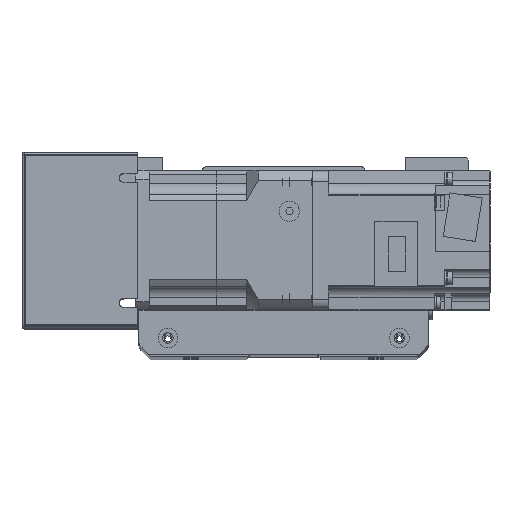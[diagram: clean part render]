
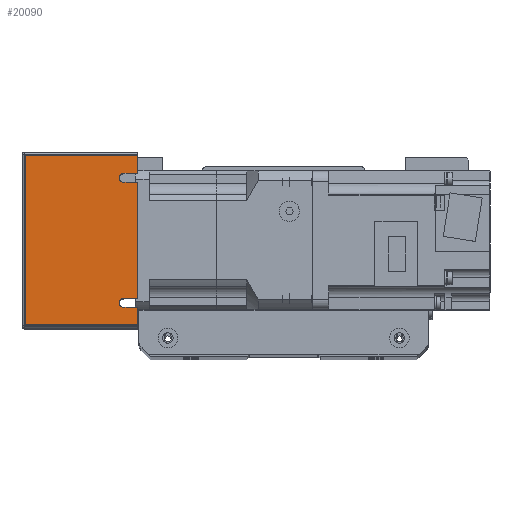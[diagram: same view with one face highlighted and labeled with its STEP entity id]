
A CAD part, top view. The second image highlights one B-rep face of the part: STEP entity #20090.
In plain terms, the highlighted planar face has unit normal (0, 0, 1) as drawn and (-1, 0, 0) by its records, which use the part's own axes.
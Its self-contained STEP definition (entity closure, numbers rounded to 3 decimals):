
#706=PLANE('',#22256);
#2036=LINE('',#34006,#3660);
#2045=LINE('',#34025,#3669);
#2052=LINE('',#34042,#3676);
#2060=LINE('',#34060,#3684);
#2073=LINE('',#34099,#3697);
#2078=LINE('',#34111,#3702);
#2082=LINE('',#34123,#3706);
#2085=LINE('',#34133,#3709);
#2086=LINE('',#34135,#3710);
#2087=LINE('',#34136,#3711);
#3660=VECTOR('',#27553,10.);
#3669=VECTOR('',#27566,10.);
#3676=VECTOR('',#27577,10.);
#3684=VECTOR('',#27589,10.);
#3697=VECTOR('',#27632,10.);
#3702=VECTOR('',#27643,10.);
#3706=VECTOR('',#27653,10.);
#3709=VECTOR('',#27664,10.);
#3710=VECTOR('',#27665,10.);
#3711=VECTOR('',#27666,10.);
#6038=FACE_OUTER_BOUND('',#7646,.T.);
#7646=EDGE_LOOP('',(#18047,#18048,#18049,#18050,#18051,#18052,#18053,#18054,
#18055,#18056,#18057,#18058));
#8790=CIRCLE('',#22234,2.);
#8795=CIRCLE('',#22242,2.);
#10483=VERTEX_POINT('',#34003);
#10484=VERTEX_POINT('',#34005);
#10490=VERTEX_POINT('',#34019);
#10492=VERTEX_POINT('',#34023);
#10499=VERTEX_POINT('',#34039);
#10500=VERTEX_POINT('',#34041);
#10507=VERTEX_POINT('',#34057);
#10508=VERTEX_POINT('',#34059);
#10519=VERTEX_POINT('',#34097);
#10528=VERTEX_POINT('',#34122);
#10531=VERTEX_POINT('',#34132);
#10532=VERTEX_POINT('',#34134);
#13038=EDGE_CURVE('',#10484,#10483,#2036,.T.);
#13047=EDGE_CURVE('',#10490,#10492,#2045,.T.);
#13054=EDGE_CURVE('',#10500,#10499,#2052,.T.);
#13062=EDGE_CURVE('',#10508,#10507,#2060,.T.);
#13068=EDGE_CURVE('',#10492,#10484,#8790,.T.);
#13079=EDGE_CURVE('',#10507,#10500,#8795,.T.);
#13084=EDGE_CURVE('',#10519,#10499,#2073,.T.);
#13091=EDGE_CURVE('',#10508,#10483,#2078,.T.);
#13097=EDGE_CURVE('',#10490,#10528,#2082,.T.);
#13102=EDGE_CURVE('',#10531,#10519,#2085,.T.);
#13103=EDGE_CURVE('',#10532,#10531,#2086,.T.);
#13104=EDGE_CURVE('',#10528,#10532,#2087,.T.);
#18047=ORIENTED_EDGE('',*,*,#13038,.T.);
#18048=ORIENTED_EDGE('',*,*,#13091,.F.);
#18049=ORIENTED_EDGE('',*,*,#13062,.T.);
#18050=ORIENTED_EDGE('',*,*,#13079,.T.);
#18051=ORIENTED_EDGE('',*,*,#13054,.T.);
#18052=ORIENTED_EDGE('',*,*,#13084,.F.);
#18053=ORIENTED_EDGE('',*,*,#13102,.F.);
#18054=ORIENTED_EDGE('',*,*,#13103,.F.);
#18055=ORIENTED_EDGE('',*,*,#13104,.F.);
#18056=ORIENTED_EDGE('',*,*,#13097,.F.);
#18057=ORIENTED_EDGE('',*,*,#13047,.T.);
#18058=ORIENTED_EDGE('',*,*,#13068,.T.);
#20090=ADVANCED_FACE('',(#6038),#706,.T.);
#22234=AXIS2_PLACEMENT_3D('',#34072,#27599,#27600);
#22242=AXIS2_PLACEMENT_3D('',#34090,#27621,#27622);
#22256=AXIS2_PLACEMENT_3D('',#34131,#27662,#27663);
#27553=DIRECTION('',(0.,0.,1.));
#27566=DIRECTION('',(0.,0.,-1.));
#27577=DIRECTION('',(0.,0.,1.));
#27589=DIRECTION('',(0.,0.,-1.));
#27599=DIRECTION('center_axis',(1.,0.,0.));
#27600=DIRECTION('ref_axis',(0.,0.,1.));
#27621=DIRECTION('center_axis',(1.,0.,0.));
#27622=DIRECTION('ref_axis',(0.,0.,1.));
#27632=DIRECTION('',(0.,-1.,0.));
#27643=DIRECTION('',(0.,-1.,0.));
#27653=DIRECTION('',(0.,-1.,0.));
#27662=DIRECTION('center_axis',(-1.,0.,0.));
#27663=DIRECTION('ref_axis',(0.,-1.,0.));
#27664=DIRECTION('',(0.,0.,1.));
#27665=DIRECTION('',(0.,1.,0.));
#27666=DIRECTION('',(0.,0.,-1.));
#34003=CARTESIAN_POINT('',(-91.,-25.,25.));
#34005=CARTESIAN_POINT('',(-91.,-25.,19.));
#34006=CARTESIAN_POINT('',(-91.,-25.,9.5));
#34019=CARTESIAN_POINT('',(-91.,-29.,25.));
#34023=CARTESIAN_POINT('',(-91.,-29.,19.));
#34025=CARTESIAN_POINT('',(-91.,-29.,15.178));
#34039=CARTESIAN_POINT('',(-91.,29.,25.));
#34041=CARTESIAN_POINT('',(-91.,29.,19.));
#34042=CARTESIAN_POINT('',(-91.,29.,9.5));
#34057=CARTESIAN_POINT('',(-91.,25.,19.));
#34059=CARTESIAN_POINT('',(-91.,25.,25.));
#34060=CARTESIAN_POINT('',(-91.,25.,15.178));
#34072=CARTESIAN_POINT('Origin',(-91.,-27.,19.));
#34090=CARTESIAN_POINT('Origin',(-91.,27.,19.));
#34097=CARTESIAN_POINT('',(-91.,37.,25.));
#34099=CARTESIAN_POINT('',(-91.,-38.,25.));
#34111=CARTESIAN_POINT('',(-91.,-38.,25.));
#34122=CARTESIAN_POINT('',(-91.,-37.,25.));
#34123=CARTESIAN_POINT('',(-91.,-38.,25.));
#34131=CARTESIAN_POINT('Origin',(-91.,38.,0.));
#34132=CARTESIAN_POINT('',(-91.,37.,-24.));
#34133=CARTESIAN_POINT('',(-91.,37.,0.));
#34134=CARTESIAN_POINT('',(-91.,-37.,-24.));
#34135=CARTESIAN_POINT('',(-91.,19.,-24.));
#34136=CARTESIAN_POINT('',(-91.,-37.,0.));
